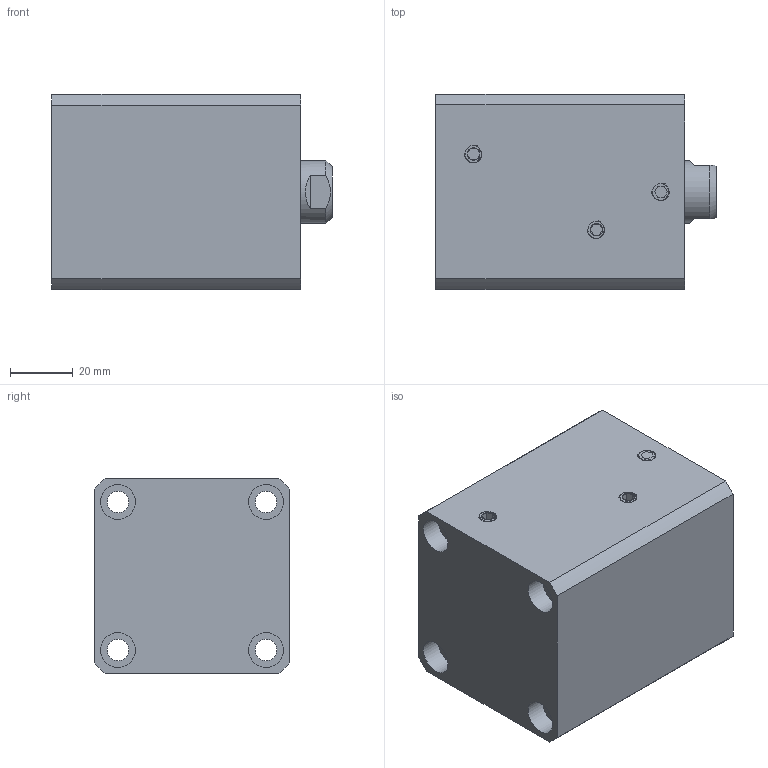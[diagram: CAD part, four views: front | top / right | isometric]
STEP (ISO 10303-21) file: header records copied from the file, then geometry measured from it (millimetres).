
FILE_DESCRIPTION(/* description */ (''),/* implementation_level */ '2;1');
FILE_NAME(/* name */ 'CHTB-sdma32x25n.stp',/* time_stamp */ '2022-04-29T17:09:00+08:00',/* author */ (''),/* organization */ (''),/* preprocessor_version */ 'ST-DEVELOPER v16.7',/* originating_system */ 'SIEMENS PLM Software NX 12.0',/* authorisation */ '');
FILE_SCHEMA (('AUTOMOTIVE_DESIGN { 1 0 10303 214 3 1 1 1 }'));
Length unit declared in the file: millimetre
Products named in the file (1): CHTB-sdma32x25n
Bounding box: 89 x 62 x 62 mm (x, y, z)
Volume: 243048.9 mm3; surface area: 61793.4 mm2
Topology: 5 solids, 6 shells, 591 faces, 1634 edges, 1101 vertices
Faces by surface type: plane 330, extrusion 119, cylinder 69, bspline 44, cone 17, torus 12
Full cylindrical faces by diameter (mm): 3 x2, 4 x4, 6.8 x4, 9 x2, 10 x7, 11 x8, 20 x2, 24.5 x1, 26 x2, 32 x4, 40 x1
Entity records: 37073 total; most frequent: CARTESIAN_POINT 20689, ORIENTED_EDGE 3082, DIRECTION 2132, EDGE_CURVE 1541, VERTEX_POINT 1064, VECTOR 1040, LINE 921, EDGE_LOOP 696
